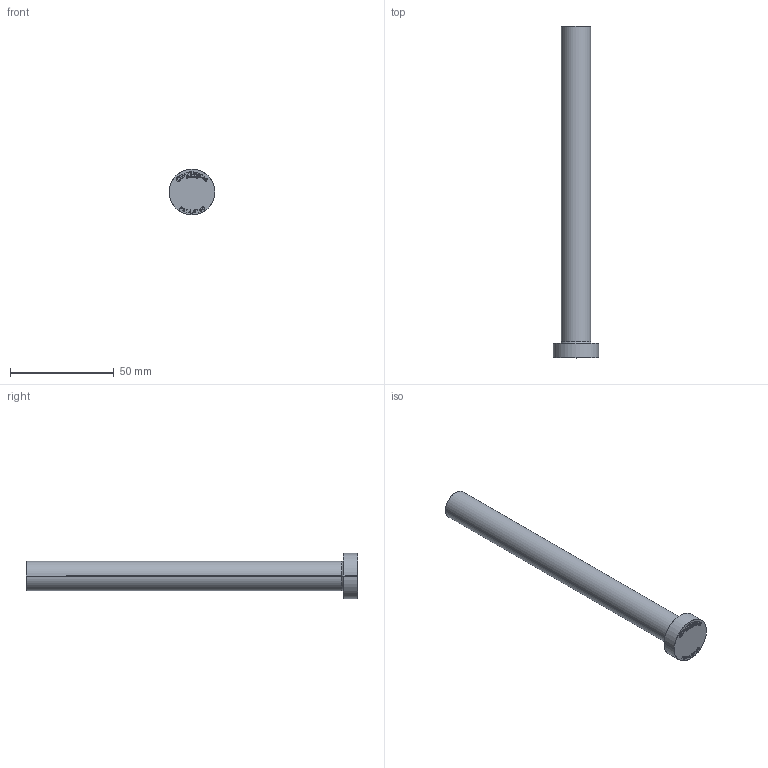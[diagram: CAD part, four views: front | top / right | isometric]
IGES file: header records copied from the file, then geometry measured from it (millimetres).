
Start section: SolidWorks IGES file using analytic representation for surfaces
Global section: file name: C:\Users\User\Downloads\Matripeça 31-08 tar\PB - PINO EXTRATOR TIPO _B_ (CATÁLOGO)\PB14,0\PB14,0160.IGS; native system: SolidWorks 2024; preprocessor: SolidWorks 2024; author: User; date: 260901.154429; units: millimetre
Bounding box: 22 x 160 x 22 mm (x, y, z)
Surface area: 7975.4 mm2 (no closed solid volume)
Topology: 0 solids, 0 shells, 395 faces, 3962 edges, 3962 vertices
Faces by surface type: bspline 381, revolution 14
